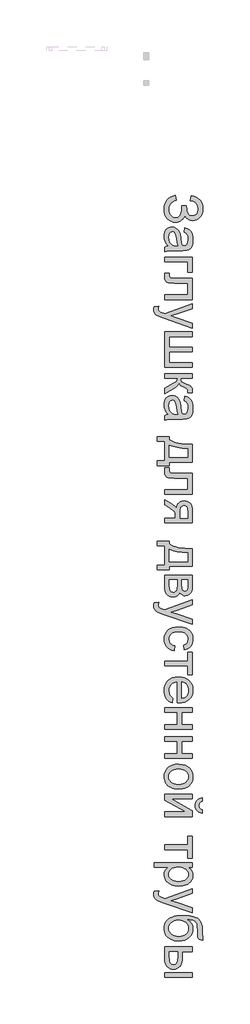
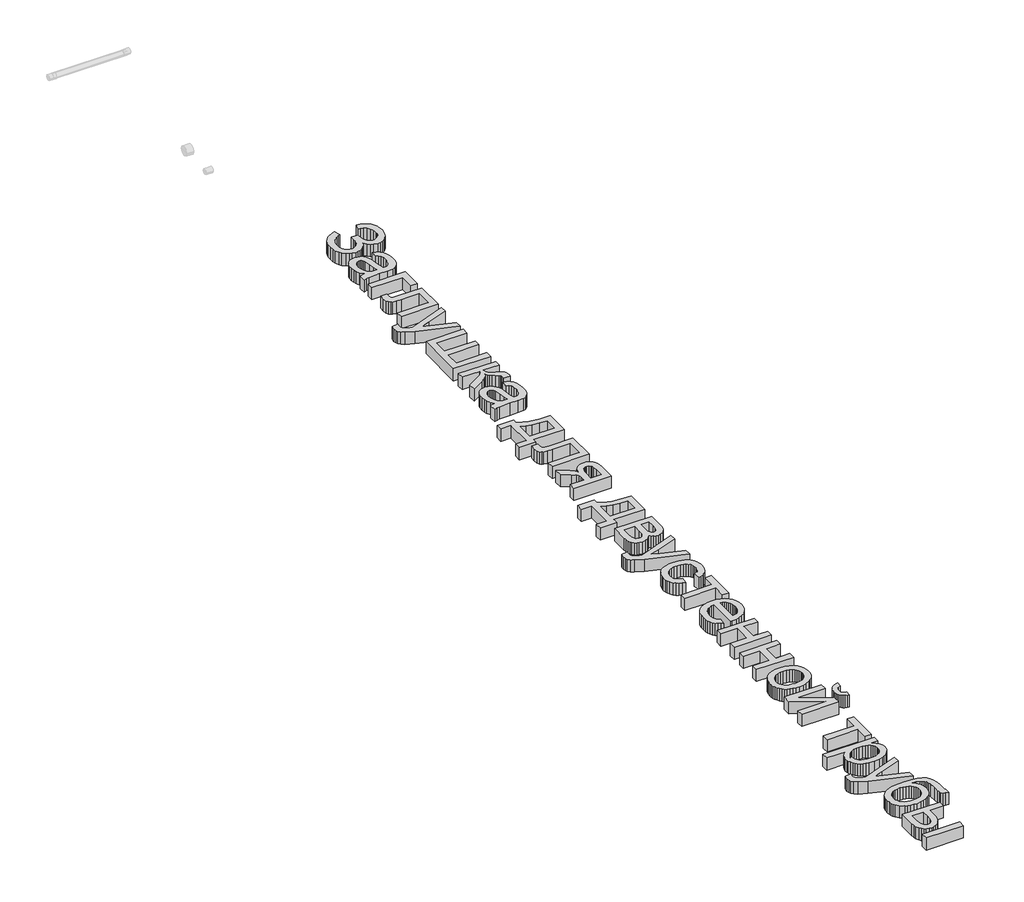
# One storey, part 30 of 33: 1 proxy.
"""IFC4 building model written with IfcOpenShell, lengths in millimetres."""

from ifc_helpers import new_model, si_unit, origin, origin_with_axes, place, context, project, spatial, polyline, outline, extrude, element, save

model = new_model("IFC4")

# Units and contexts
model_context = context("Model", 3, world=origin())
ifc_project = project(units=[si_unit("LENGTHUNIT", "METRE", prefix="MILLI")], contexts=[model_context])

# Site, building, storey
site = spatial("IfcSite", under=ifc_project)
building = spatial("IfcBuilding", under=site)
storey = spatial("IfcBuildingStorey", under=building, Name="Уровень 1", Elevation=0.0)

# Proxy
placement = place(None, origin())
element("IfcBuildingElementProxy", 1, Name="Надпись на модели 1", ObjectType="Надпись на модели 1", at=placement, inside=storey, context=model_context, shape_type="SweptSolid", body=[
    extrude(outline(polyline([(104390.6164186, -539.2594454), (104409.077957, -613.1055992), (104389.0974883, -619.131741), (104369.1080051, -628.7005511), (104329.1019955, -658.4661761), (104311.5914787, -678.3925583), (104299.0839666, -701.3207434), (104291.5794594, -727.2507314), (104289.077957, -756.1825223), (104290.9574642, -785.6191208), (104296.5959859, -811.765455), (104305.9935219, -834.6215247), (104319.1500724, -854.18733), (104334.9658777, -869.8679189), (104352.3411782, -881.0683396), (104371.2759738, -887.788592), (104391.7702647, -890.0286761), (104413.5986902, -887.5812603), (104433.0743512, -880.2390127), (104450.1972479, -868.0019333), (104464.9673801, -850.8700223), (104476.8619113, -829.5193612), (104485.3580051, -804.6260319), (104490.4556613, -776.1900343), (104492.1548801, -744.2113684), (104492.1548801, -705.4132915), (104566.0010339, -705.4132915), (104567.4974282, -753.640455), (104571.9866109, -788.9950223), (104582.6236301, -816.2366088), (104602.5635339, -840.12483), (104628.8315628, -856.7834838), (104658.452957, -862.3363684), (104676.4502527, -860.4884117), (104693.2306012, -854.9445415), (104708.7940027, -845.7047579), (104723.140457, -832.7690607), (104735.1611902, -816.6783156), (104743.7474282, -797.9733877), (104748.899171, -776.6542771), (104750.6164186, -752.7209838), (104745.3339666, -711.8135319), (104729.4866109, -677.3604069), (104704.9132936, -650.9661761), (104673.452957, -634.2354069), (104642.984207, -625.3111281), (104621.3856493, -622.3363684), (104639.8471878, -548.4902146), (104683.1164186, -557.6330932), (104720.6164186, -571.4319213), (104752.3471878, -589.886699), (104778.3087262, -612.9974261), (104798.5010339, -640.7641028), (104812.9241109, -673.186729), (104821.577957, -710.2653047), (104824.4625724, -751.99983), (104821.4652767, -792.2086641), (104812.4733897, -828.0274742), (104797.4869113, -859.4562603), (104776.5058416, -886.4950223), (104751.5133537, -908.2333035), (104724.4926205, -923.7606473), (104695.4436421, -933.0770535), (104664.3664186, -936.1825223), (104625.5052407, -931.3507915), (104591.2774762, -916.8555992), (104561.6831253, -892.6969454), (104536.7221878, -858.87483), (104528.8931613, -880.3201425), (104517.8099282, -899.9445415), (104503.4724883, -917.7480271), (104485.8808416, -933.7305992), (104465.7200844, -946.9187002), (104443.6753128, -956.3387723), (104419.7465267, -961.9908156), (104393.9337262, -963.87483), (104357.4117912, -960.2600463), (104323.999832, -949.4156954), (104293.6978488, -931.3417771), (104266.5058416, -906.0382915), (104244.0734498, -874.7672579), (104228.0503128, -838.7906954), (104218.4364306, -798.108604), (104215.2318032, -752.7209838), (104217.9721878, -713.4812002), (104226.1933416, -677.8291569), (104239.8952647, -645.764854), (104259.077957, -617.2882915), (104283.7414186, -592.3994694), (104313.8856493, -571.0983877), (104349.5106493, -553.3850463), (104390.6164186, -539.2594454)])), origin_with_axes(), (0.0, 0.0, 1.0), 150.0),
    extrude(outline(polyline([(104279.8471878, -1333.1055992), (104249.5947839, -1297.8231473), (104229.7991109, -1261.4950223), (104218.8736301, -1223.2918973), (104215.2318032, -1182.3844454), (104217.422308, -1149.5043372), (104223.9938224, -1120.671705), (104234.9463464, -1095.8865487), (104250.2798801, -1075.1488684), (104269.0208657, -1058.7741689), (104290.1957455, -1047.077955), (104313.8045195, -1040.0602266), (104339.8471878, -1037.7209838), (104370.4601686, -1041.2546377), (104398.2606493, -1051.8555992), (104422.0587262, -1068.2077627), (104440.6644955, -1088.9950223), (104454.7269955, -1113.4241088), (104464.8952647, -1140.7017531), (104476.0010339, -1204.5959838), (104487.6837262, -1280.1007915), (104501.3856493, -1332.6729069), (104517.827957, -1333.1055992), (104550.7846878, -1328.0214646), (104562.9902166, -1321.6662963), (104572.3471878, -1312.7690607), (104581.6861301, -1297.390455), (104588.3568032, -1278.6584838), (104593.6933416, -1231.1344454), (104590.1416589, -1187.1440607), (104579.4866109, -1156.4229069), (104559.781082, -1135.4733877), (104529.077957, -1120.7979069), (104538.3087262, -1046.9517531), (104578.6933416, -1059.7702627), (104610.4241109, -1078.8988684), (104634.6909378, -1106.1224261), (104652.6837262, -1143.2257915), (104663.8255532, -1188.6043973), (104667.5394955, -1240.6536761), (104664.2582455, -1290.5755511), (104654.4144955, -1330.1488684), (104639.6128128, -1359.9866088), (104621.4577647, -1380.7017531), (104599.0118512, -1394.4397338), (104571.3375724, -1403.3459838), (104506.7221878, -1406.9517531), (104414.8471878, -1406.9517531), (104286.5539186, -1410.7017531), (104254.8411782, -1416.2546377), (104224.4625724, -1425.4132915), (104224.4625724, -1351.5671377), (104250.1356493, -1339.7402146), (104279.8471878, -1333.1055992)]), holes=[polyline([(104427.5394955, -1333.1055992), (104415.2438224, -1283.4902146), (104404.8952647, -1213.9709838), (104392.9241109, -1150.43733), (104384.7390147, -1133.9048781), (104373.452957, -1121.6632915), (104359.9313224, -1114.0911761), (104345.0394955, -1111.5671377), (104323.0803609, -1117.0659357), (104305.0875724, -1133.56233), (104293.0803609, -1160.6957434), (104289.077957, -1198.1055992), (104293.4950243, -1237.7690607), (104306.7462262, -1272.8171377), (104326.2714666, -1301.2305992), (104349.5106493, -1320.9902146), (104373.452957, -1329.7522338), (104406.6260339, -1332.6729069), (104427.5394955, -1333.1055992)])]), origin_with_axes(), (0.0, 0.0, 1.0), 150.0),
    extrude(outline(polyline([(104658.3087262, -1508.4902146), (104658.3087262, -1748.4902146), (104584.4625724, -1748.4902146), (104584.4625724, -1582.3363684), (104224.4625724, -1582.3363684), (104224.4625724, -1508.4902146), (104658.3087262, -1508.4902146)])), origin_with_axes(), (0.0, 0.0, 1.0), 150.0),
    extrude(outline(polyline([(104658.3087262, -1840.7979069), (104658.3087262, -2173.1055992), (104224.8952647, -2173.1055992), (104224.8952647, -2099.2594454), (104584.4625724, -2099.2594454), (104584.4625724, -1914.6440607), (104377.4914186, -1914.6440607), (104317.4193032, -1913.4000704), (104282.0106493, -1909.6680992), (104260.3940628, -1900.3471857), (104241.6981493, -1882.3363684), (104228.7714666, -1855.0046377), (104224.4625724, -1817.7209838), (104228.2125724, -1757.7209838), (104298.3087262, -1757.7209838), (104298.3087262, -1790.74983), (104302.8519955, -1824.1392531), (104308.7293993, -1832.4866088), (104317.2750724, -1837.4805992), (104381.6741109, -1840.7979069), (104658.3087262, -1840.7979069)])), origin_with_axes(), (0.0, 0.0, 1.0), 150.0),
    extrude(outline(polyline([(104058.3087262, -2283.87483), (104129.4144955, -2274.6440607), (104122.9241109, -2312.1440607), (104124.9613705, -2331.8676184), (104131.0731493, -2347.1921377), (104140.8267551, -2359.1272338), (104153.7894955, -2368.6825223), (104208.1644955, -2388.87483), (104226.0491109, -2394.6440607), (104658.3087262, -2237.7209838), (104658.3087262, -2315.6055992), (104417.4433416, -2398.8267531), (104321.0971878, -2427.8171377), (104406.1933416, -2456.8075223), (104658.3087262, -2542.3363684), (104658.3087262, -2619.6440607), (104214.077957, -2468.6344454), (104117.7318032, -2429.4036761), (104086.9745916, -2409.3195415), (104065.6644955, -2386.5671377), (104053.2245916, -2360.1368492), (104049.077957, -2329.0190607), (104051.3856493, -2307.6368492), (104058.3087262, -2283.87483)])), origin_with_axes(), (0.0, 0.0, 1.0), 150.0),
    extrude(outline(polyline([(104658.3087262, -2680.7979069), (104658.3087262, -2754.6440607), (104298.3087262, -2754.6440607), (104298.3087262, -2920.7979069), (104658.3087262, -2920.7979069), (104658.3087262, -2994.6440607), (104298.3087262, -2994.6440607), (104298.3087262, -3160.7979069), (104658.3087262, -3160.7979069), (104658.3087262, -3234.6440607), (104224.4625724, -3234.6440607), (104224.4625724, -2680.7979069), (104658.3087262, -2680.7979069)])), origin_with_axes(), (0.0, 0.0, 1.0), 150.0),
    extrude(outline(polyline([(104658.3087262, -3336.1825223), (104658.3087262, -3410.0286761), (104473.6933416, -3410.0286761), (104477.0106493, -3440.0647338), (104486.9625724, -3459.49983), (104512.9241109, -3476.6993492), (104564.2702647, -3500.0286761), (104606.2594474, -3518.8327627), (104630.9769955, -3533.7065607), (104644.4445436, -3547.5887723), (104652.6837262, -3563.4180992), (104656.9024762, -3585.3231473), (104658.3087262, -3617.4325223), (104658.3087262, -3631.5671377), (104584.0298801, -3631.5671377), (104584.4625724, -3611.6632915), (104582.515457, -3588.5863684), (104576.6741109, -3575.6055992), (104560.4120916, -3565.0767531), (104528.0683416, -3550.2209838), (104495.6705051, -3534.6260319), (104475.4962262, -3520.43733), (104462.0286782, -3503.2558396), (104449.7510339, -3478.6825223), (104439.3574041, -3502.0839646), (104421.0130532, -3525.2690607), (104394.7179811, -3548.2378107), (104360.4721878, -3570.9902146), (104224.4625724, -3650.0286761), (104224.4625724, -3566.0863684), (104357.5875724, -3488.6344454), (104393.0142551, -3467.7209838), (104413.9096878, -3449.6921377), (104424.1320436, -3431.4830031), (104427.5394955, -3410.0286761), (104224.4625724, -3410.0286761), (104224.4625724, -3336.1825223), (104658.3087262, -3336.1825223)])), origin_with_axes(), (0.0, 0.0, 1.0), 150.0),
    extrude(outline(polyline([(104279.8471878, -3973.1055992), (104249.5947839, -3937.8231473), (104229.7991109, -3901.4950223), (104218.8736301, -3863.2918973), (104215.2318032, -3822.3844454), (104217.422308, -3789.5043372), (104223.9938224, -3760.671705), (104234.9463464, -3735.8865487), (104250.2798801, -3715.1488684), (104269.0208657, -3698.7741689), (104290.1957455, -3687.077955), (104313.8045195, -3680.0602266), (104339.8471878, -3677.7209838), (104370.4601686, -3681.2546377), (104398.2606493, -3691.8555992), (104422.0587262, -3708.2077627), (104440.6644955, -3728.9950223), (104454.7269955, -3753.4241088), (104464.8952647, -3780.7017531), (104476.0010339, -3844.5959838), (104487.6837262, -3920.1007915), (104501.3856493, -3972.6729069), (104517.827957, -3973.1055992), (104550.7846878, -3968.0214646), (104562.9902166, -3961.6662963), (104572.3471878, -3952.7690607), (104581.6861301, -3937.390455), (104588.3568032, -3918.6584838), (104593.6933416, -3871.1344454), (104590.1416589, -3827.1440607), (104579.4866109, -3796.4229069), (104559.781082, -3775.4733877), (104529.077957, -3760.7979069), (104538.3087262, -3686.9517531), (104578.6933416, -3699.7702627), (104610.4241109, -3718.8988684), (104634.6909378, -3746.1224261), (104652.6837262, -3783.2257915), (104663.8255532, -3828.6043973), (104667.5394955, -3880.6536761), (104664.2582455, -3930.5755511), (104654.4144955, -3970.1488684), (104639.6128128, -3999.9866088), (104621.4577647, -4020.7017531), (104599.0118512, -4034.4397338), (104571.3375724, -4043.3459838), (104506.7221878, -4046.9517531), (104414.8471878, -4046.9517531), (104286.5539186, -4050.7017531), (104254.8411782, -4056.2546377), (104224.4625724, -4065.4132915), (104224.4625724, -3991.5671377), (104250.1356493, -3979.7402146), (104279.8471878, -3973.1055992)]), holes=[polyline([(104427.5394955, -3973.1055992), (104415.2438224, -3923.4902146), (104404.8952647, -3853.9709838), (104392.9241109, -3790.43733), (104384.7390147, -3773.9048781), (104373.452957, -3761.6632915), (104359.9313224, -3754.0911761), (104345.0394955, -3751.5671377), (104323.0803609, -3757.0659357), (104305.0875724, -3773.56233), (104293.0803609, -3800.6957434), (104289.077957, -3838.1055992), (104293.4950243, -3877.7690607), (104306.7462262, -3912.8171377), (104326.2714666, -3941.2305992), (104349.5106493, -3960.9902146), (104373.452957, -3969.7522338), (104406.6260339, -3972.6729069), (104427.5394955, -3973.1055992)])]), origin_with_axes(), (0.0, 0.0, 1.0), 150.0),
    extrude(outline(polyline([(104658.3087262, -4443.87483), (104658.3087262, -4720.7979069), (104298.3087262, -4720.7979069), (104298.3087262, -4776.1825223), (104104.4625724, -4776.1825223), (104104.4625724, -4702.3363684), (104224.4625724, -4702.3363684), (104224.4625724, -4397.7209838), (104104.4625724, -4397.7209838), (104104.4625724, -4323.87483), (104298.3087262, -4323.87483), (104298.3087262, -4370.0286761), (104326.1768152, -4388.0620295), (104358.9397359, -4403.5803588), (104396.5974883, -4416.5836641), (104439.1500724, -4427.0719454), (104538.9397359, -4440.5034357), (104658.3087262, -4443.87483)]), holes=[polyline([(104584.4625724, -4508.4902146), (104494.0479089, -4502.4325223), (104416.2173801, -4491.1825223), (104350.9709859, -4474.7402146), (104298.3087262, -4453.1055992), (104298.3087262, -4646.9517531), (104584.4625724, -4646.9517531), (104584.4625724, -4508.4902146)])]), origin_with_axes(), (0.0, 0.0, 1.0), 150.0),
    extrude(outline(polyline([(104658.3087262, -4896.1825223), (104658.3087262, -5228.4902146), (104224.8952647, -5228.4902146), (104224.8952647, -5154.6440607), (104584.4625724, -5154.6440607), (104584.4625724, -4970.0286761), (104377.4914186, -4970.0286761), (104317.4193032, -4968.7846857), (104282.0106493, -4965.0527146), (104260.3940628, -4955.7318011), (104241.6981493, -4937.7209838), (104228.7714666, -4910.3892531), (104224.4625724, -4873.1055992), (104228.2125724, -4813.1055992), (104298.3087262, -4813.1055992), (104298.3087262, -4846.1344454), (104302.8519955, -4879.5238684), (104308.7293993, -4887.8712242), (104317.2750724, -4892.8652146), (104381.6741109, -4896.1825223), (104658.3087262, -4896.1825223)])), origin_with_axes(), (0.0, 0.0, 1.0), 150.0),
    extrude(outline(polyline([(104658.3087262, -5671.5671377), (104224.4625724, -5671.5671377), (104224.4625724, -5597.7209838), (104390.6164186, -5597.7209838), (104390.6164186, -5557.4805992), (104388.2726686, -5525.3892531), (104381.2414186, -5502.6729069), (104360.796707, -5480.7858877), (104318.2125724, -5451.1825223), (104224.4625724, -5392.3363684), (104224.4625724, -5306.9517531), (104343.0202647, -5381.0863684), (104385.5683416, -5413.8267531), (104397.9721878, -5429.2233877), (104404.4625724, -5443.9709838), (104410.4571637, -5416.8555992), (104419.9313224, -5393.4902146), (104432.8850484, -5373.87483), (104449.3183416, -5358.0094454), (104468.1765147, -5345.7678588), (104488.4048801, -5337.0238684), (104510.0034378, -5331.7774742), (104532.9721878, -5330.0286761), (104559.5647359, -5332.4174982), (104583.5250724, -5339.5839646), (104604.8531974, -5351.5280752), (104623.5491109, -5368.24983), (104638.7564426, -5389.4968252), (104649.6188224, -5415.0166569), (104656.1362503, -5444.8093252), (104658.3087262, -5478.87483), (104658.3087262, -5671.5671377)]), holes=[polyline([(104584.4625724, -5597.7209838), (104584.4625724, -5500.3652146), (104580.1897359, -5450.0827627), (104574.8486902, -5433.0950824), (104567.3712262, -5421.5430992), (104548.8195436, -5408.2918973), (104527.3471878, -5403.87483), (104512.1984498, -5405.5019333), (104499.2041589, -5410.3832434), (104488.3643152, -5418.5187603), (104479.6789186, -5429.9084838), (104473.0217671, -5445.4358276), (104468.2666589, -5465.984205), (104464.4625724, -5522.1440607), (104464.4625724, -5597.7209838), (104584.4625724, -5597.7209838)])]), origin_with_axes(), (0.0, 0.0, 1.0), 150.0),
    extrude(outline(polyline([(104658.3087262, -6077.7209838), (104658.3087262, -6354.6440607), (104298.3087262, -6354.6440607), (104298.3087262, -6410.0286761), (104104.4625724, -6410.0286761), (104104.4625724, -6336.1825223), (104224.4625724, -6336.1825223), (104224.4625724, -6031.5671377), (104104.4625724, -6031.5671377), (104104.4625724, -5957.7209838), (104298.3087262, -5957.7209838), (104298.3087262, -6003.87483), (104326.1768152, -6021.9081833), (104358.9397359, -6037.4265127), (104396.5974883, -6050.429818), (104439.1500724, -6060.9180992), (104538.9397359, -6074.3495896), (104658.3087262, -6077.7209838)]), holes=[polyline([(104584.4625724, -6142.3363684), (104494.0479089, -6136.2786761), (104416.2173801, -6125.0286761), (104350.9709859, -6108.5863684), (104298.3087262, -6086.9517531), (104298.3087262, -6280.7979069), (104584.4625724, -6280.7979069), (104584.4625724, -6142.3363684)])]), origin_with_axes(), (0.0, 0.0, 1.0), 150.0),
    extrude(outline(polyline([(104658.3087262, -6493.1055992), (104658.3087262, -6655.7979069), (104655.8387743, -6708.0995896), (104648.4289186, -6745.0046377), (104634.4385339, -6772.15608), (104612.2269955, -6795.1969454), (104583.2906974, -6810.9361281), (104549.1260339, -6816.1825223), (104521.5959859, -6813.0094454), (104497.8519955, -6803.4902146), (104477.7858897, -6787.5887723), (104461.2894955, -6765.2690607), (104445.9469474, -6792.6007915), (104421.265457, -6814.8844454), (104389.1921397, -6829.7041569), (104351.6741109, -6834.6440607), (104321.4487503, -6830.5424982), (104295.3880532, -6822.1320415), (104273.4920195, -6809.4126906), (104255.7606493, -6792.3844454), (104242.0677407, -6771.0202627), (104232.2870916, -6745.2930992), (104226.4187022, -6715.202955), (104224.4625724, -6680.74983), (104224.4625724, -6493.1055992), (104658.3087262, -6493.1055992)]), holes=[polyline([(104298.3087262, -6566.9517531), (104298.3087262, -6657.5286761), (104301.6440628, -6706.8916569), (104311.6500724, -6737.8652146), (104319.5331854, -6747.4655752), (104329.8411782, -6754.4878107), (104357.7318032, -6760.7979069), (104376.2113705, -6757.6428588), (104393.2846878, -6748.1777146), (104406.6440628, -6733.6464646), (104413.9818032, -6715.2930992), (104418.3087262, -6650.3171377), (104418.3087262, -6566.9517531), (104298.3087262, -6566.9517531)]), polyline([(104492.1548801, -6566.9517531), (104492.1548801, -6639.9325223), (104495.9048801, -6700.1488684), (104501.5298801, -6715.6536761), (104510.9048801, -6729.4277146), (104523.3087262, -6739.109205), (104538.0202647, -6742.3363684), (104550.0184618, -6740.921104), (104560.0515147, -6736.6753107), (104568.1194234, -6729.5989886), (104574.2221878, -6719.6921377), (104581.9024762, -6689.0070415), (104584.4625724, -6642.2402146), (104584.4625724, -6566.9517531), (104492.1548801, -6566.9517531)])]), origin_with_axes(), (0.0, 0.0, 1.0), 150.0),
    extrude(outline(polyline([(104058.3087262, -6926.9517531), (104129.4144955, -6917.7209838), (104122.9241109, -6955.2209838), (104124.9613705, -6974.9445415), (104131.0731493, -6990.2690607), (104140.8267551, -7002.2041569), (104153.7894955, -7011.7594454), (104208.1644955, -7031.9517531), (104226.0491109, -7037.7209838), (104658.3087262, -6880.7979069), (104658.3087262, -6958.6825223), (104417.4433416, -7041.9036761), (104321.0971878, -7070.8940607), (104406.1933416, -7099.8844454), (104658.3087262, -7185.4132915), (104658.3087262, -7262.7209838), (104214.077957, -7111.7113684), (104117.7318032, -7072.4805992), (104086.9745916, -7052.3964646), (104065.6644955, -7029.6440607), (104053.2245916, -7003.2137723), (104049.077957, -6972.0959838), (104051.3856493, -6950.7137723), (104058.3087262, -6926.9517531)])), origin_with_axes(), (0.0, 0.0, 1.0), 150.0),
    extrude(outline(polyline([(104381.3856493, -7600.7979069), (104372.1548801, -7674.6440607), (104337.3096277, -7666.6122098), (104306.4757936, -7654.0551184), (104279.6533777, -7636.9727867), (104256.8423801, -7615.3652146), (104238.6377527, -7590.1428588), (104225.6344474, -7562.2161761), (104217.8324642, -7531.5851665), (104215.2318032, -7498.24983), (104218.8601085, -7456.8330631), (104229.7450243, -7419.6981473), (104247.8865508, -7386.8450824), (104273.2846878, -7358.2738684), (104305.461671, -7335.147366), (104343.9397359, -7318.6284357), (104388.7188825, -7308.7170776), (104439.7991109, -7305.4132915), (104505.5142551, -7311.0563204), (104535.08607, -7318.1101064), (104562.4673801, -7327.9854069), (104587.1083056, -7340.74983), (104608.4589666, -7356.4709838), (104626.5193633, -7375.1488684), (104641.2894955, -7396.7834838), (104652.7738705, -7420.3967651), (104660.9769955, -7445.0106473), (104665.8988705, -7470.6251305), (104667.5394955, -7497.2402146), (104665.2858897, -7530.0031353), (104658.5250724, -7559.6380511), (104647.2570436, -7586.1449622), (104631.4818032, -7609.5238684), (104611.5599282, -7629.3781353), (104587.8519955, -7645.3111281), (104560.3580051, -7657.3228468), (104529.077957, -7665.4132915), (104519.8471878, -7591.5671377), (104552.0647359, -7578.171705), (104575.1596878, -7557.31233), (104589.0599282, -7530.1428588), (104593.6933416, -7497.8171377), (104591.4126926, -7472.725491), (104584.5707455, -7450.0947819), (104573.1675003, -7429.9250103), (104557.202957, -7412.2161761), (104536.3075243, -7397.7976064), (104510.1116109, -7387.4986281), (104478.6152166, -7381.319241), (104441.8183416, -7379.2594454), (104404.4670796, -7381.2741689), (104372.6056012, -7387.3183396), (104346.2339065, -7397.3919574), (104325.3519955, -7411.4950223), (104309.4821037, -7428.8522939), (104298.1464666, -7448.6885319), (104291.3450844, -7471.0037362), (104289.077957, -7495.7979069), (104294.7390147, -7534.0370896), (104301.8153368, -7550.5740487), (104311.7221878, -7565.3892531), (104324.5677407, -7578.0680391), (104340.4601686, -7588.1957434), (104359.3994714, -7595.772366), (104381.3856493, -7600.7979069)])), origin_with_axes(), (0.0, 0.0, 1.0), 150.0),
    extrude(outline(polyline([(104658.3087262, -7702.3363684), (104658.3087262, -8053.1055992), (104584.4625724, -8053.1055992), (104584.4625724, -7914.6440607), (104224.4625724, -7914.6440607), (104224.4625724, -7840.7979069), (104584.4625724, -7840.7979069), (104584.4625724, -7702.3363684), (104658.3087262, -7702.3363684)])), origin_with_axes(), (0.0, 0.0, 1.0), 150.0),
    extrude(outline(polyline([(104353.6933416, -8421.4709838), (104344.4625724, -8493.87483), (104315.4631734, -8482.773568), (104289.9072839, -8467.7870896), (104267.7949041, -8448.9153949), (104249.1260339, -8426.1584838), (104234.297308, -8399.7507314), (104223.7053609, -8369.9265127), (104217.3501926, -8336.6858276), (104215.2318032, -8300.0286761), (104218.8871517, -8254.2083636), (104229.8531974, -8213.3820415), (104248.1299402, -8177.5497098), (104273.7173801, -8146.7113684), (104305.9033777, -8121.9126906), (104343.9757936, -8104.1993492), (104387.9346277, -8093.5713444), (104437.7798801, -8090.0286761), (104489.3153368, -8093.6074021), (104534.7390147, -8104.34358), (104574.0509137, -8122.2372098), (104607.2510339, -8147.2882915), (104633.6272359, -8178.0455031), (104652.4673801, -8213.0575223), (104663.7714666, -8252.3243492), (104667.5394955, -8295.8459838), (104663.7804811, -8337.9658756), (104652.5034378, -8376.0563204), (104633.7083657, -8410.117318), (104607.3952647, -8440.1488684), (104574.2672599, -8464.663592), (104535.0274762, -8482.1741088), (104489.6759137, -8492.6804189), (104438.2125724, -8496.1825223), (104418.3087262, -8495.74983), (104418.3087262, -8163.87483), (104388.8405772, -8168.1521737), (104363.0322839, -8176.6572819), (104340.8838464, -8189.3901545), (104322.3952647, -8206.3507915), (104307.8189426, -8226.601693), (104297.4072839, -8249.2053588), (104291.1602887, -8274.1617891), (104289.077957, -8301.4709838), (104292.9361301, -8340.7738684), (104304.5106493, -8373.87483), (104324.5226686, -8400.7738684), (104353.6933416, -8421.4709838)]), holes=[polyline([(104492.1548801, -8163.87483), (104492.1548801, -8422.3363684), (104531.1693032, -8412.3483877), (104546.5118512, -8403.7576425), (104559.077957, -8392.7690607), (104574.2221878, -8372.6308396), (104585.0394955, -8349.7161761), (104591.5298801, -8324.0250704), (104593.6933416, -8295.5575223), (104591.9670796, -8269.5914766), (104586.7882936, -8245.7798781), (104578.1569835, -8224.1227266), (104566.0731493, -8204.6200223), (104551.0956854, -8188.2543372), (104533.7834859, -8176.0082434), (104514.1365508, -8167.881741), (104492.1548801, -8163.87483)])]), origin_with_axes(), (0.0, 0.0, 1.0), 150.0),
    extrude(outline(polyline([(104658.3087262, -8570.0286761), (104658.3087262, -8643.87483), (104492.1548801, -8643.87483), (104492.1548801, -8837.7209838), (104658.3087262, -8837.7209838), (104658.3087262, -8911.5671377), (104224.4625724, -8911.5671377), (104224.4625724, -8837.7209838), (104418.3087262, -8837.7209838), (104418.3087262, -8643.87483), (104224.4625724, -8643.87483), (104224.4625724, -8570.0286761), (104658.3087262, -8570.0286761)])), origin_with_axes(), (0.0, 0.0, 1.0), 150.0),
    extrude(outline(polyline([(104658.3087262, -9022.3363684), (104658.3087262, -9096.1825223), (104492.1548801, -9096.1825223), (104492.1548801, -9290.0286761), (104658.3087262, -9290.0286761), (104658.3087262, -9363.87483), (104224.4625724, -9363.87483), (104224.4625724, -9290.0286761), (104418.3087262, -9290.0286761), (104418.3087262, -9096.1825223), (104224.4625724, -9096.1825223), (104224.4625724, -9022.3363684), (104658.3087262, -9022.3363684)])), origin_with_axes(), (0.0, 0.0, 1.0), 150.0),
    extrude(outline(polyline([(104441.3856493, -9456.1825223), (104497.5725484, -9460.1759117), (104545.9890147, -9472.15608), (104586.6350484, -9492.1230271), (104619.5106493, -9520.0767531), (104640.5232695, -9548.2197819), (104655.5322839, -9579.2834838), (104664.5376926, -9613.2678588), (104667.5394955, -9650.1729069), (104663.8841469, -9690.913592), (104652.9181012, -9727.7510319), (104634.6413585, -9760.6852266), (104609.0539186, -9789.7161761), (104577.0211662, -9813.4105872), (104539.4084859, -9830.3351665), (104496.2158777, -9840.4899141), (104447.4433416, -9843.87483), (104407.9150964, -9842.3784357), (104372.8399762, -9837.8892531), (104342.2179811, -9830.4072819), (104316.0491109, -9819.9325223), (104293.445445, -9806.5956833), (104273.5190628, -9790.5274742), (104256.2699642, -9771.7278949), (104241.6981493, -9750.1969454), (104230.1191229, -9726.772967), (104221.8483897, -9702.2943011), (104216.8859498, -9676.7609478), (104215.2318032, -9650.1729069), (104218.8736301, -9608.8372699), (104229.7991109, -9571.6572819), (104248.0082455, -9538.632943), (104273.5010339, -9509.7642531), (104305.8447839, -9486.3222458), (104344.6068032, -9469.577955), (104389.7870916, -9459.5313805), (104441.3856493, -9456.1825223)]), holes=[polyline([(104441.5298801, -9530.0286761), (104405.71107, -9532.1650944), (104374.6969474, -9538.5743492), (104348.4875123, -9549.2564406), (104327.0827647, -9564.2113684), (104310.4556613, -9582.4024742), (104298.5791589, -9602.7930992), (104291.4532575, -9625.3832434), (104289.077957, -9650.1729069), (104291.4667791, -9674.8363684), (104298.6332455, -9697.3363684), (104310.5773561, -9717.6729069), (104327.2991109, -9735.8459838), (104348.9156974, -9750.8009117), (104375.5443032, -9761.4830031), (104407.1849282, -9767.8922579), (104443.8375724, -9770.0286761), (104478.5205652, -9767.8787362), (104508.7233897, -9761.4289165), (104534.446046, -9750.679217), (104555.6885339, -9735.6296377), (104572.3156373, -9717.3889526), (104584.1921397, -9697.0659357), (104591.3180412, -9674.6605872), (104593.6933416, -9650.1729069), (104591.3270556, -9625.3832434), (104584.2281974, -9602.7930992), (104572.3967671, -9582.4024742), (104555.8327647, -9564.2113684), (104534.4911181, -9549.2564406), (104508.3267551, -9538.5743492), (104477.3396758, -9532.1650944), (104441.5298801, -9530.0286761)])]), origin_with_axes(), (0.0, 0.0, 1.0), 150.0),
    extrude(outline(polyline([(104815.2318032, -10166.9517531), (104815.2318032, -10222.3363684), (104790.0319835, -10217.8787362), (104767.9421397, -10210.4193011), (104748.9622719, -10199.9580631), (104733.0923801, -10186.4950223), (104720.5668392, -10170.3006112), (104711.6200243, -10151.6452627), (104706.2519354, -10130.5289766), (104704.4625724, -10106.9517531), (104706.2384137, -10081.3417771), (104711.5659378, -10058.4541569), (104720.4451445, -10038.2888925), (104732.8760339, -10020.8459838), (104748.6783176, -10006.3778348), (104767.671707, -9995.1368492), (104789.8562022, -9987.1230271), (104815.2318032, -9982.3363684), (104815.2318032, -10037.7209838), (104790.9108897, -10045.5094454), (104773.6212262, -10058.4902146), (104763.2906974, -10076.7354069), (104759.8471878, -10100.3171377), (104763.1825243, -10126.9277146), (104773.1885339, -10146.1825223), (104790.3700243, -10159.1632915), (104815.2318032, -10166.9517531)])), origin_with_axes(), (0.0, 0.0, 1.0), 150.0),
    extrude(outline(polyline([(104658.3087262, -9926.9517531), (104658.3087262, -10000.7979069), (104327.4433416, -10000.7979069), (104658.3087262, -10182.2402146), (104658.3087262, -10277.7209838), (104224.4625724, -10277.7209838), (104224.4625724, -10203.87483), (104553.3087262, -10203.87483), (104224.4625724, -10023.5863684), (104224.4625724, -9926.9517531), (104658.3087262, -9926.9517531)])), origin_with_axes(), (0.0, 0.0, 1.0), 150.0),
    extrude(outline(polyline([(104658.3087262, -10582.3363684), (104658.3087262, -10933.1055992), (104584.4625724, -10933.1055992), (104584.4625724, -10794.6440607), (104224.4625724, -10794.6440607), (104224.4625724, -10720.7979069), (104584.4625724, -10720.7979069), (104584.4625724, -10582.3363684), (104658.3087262, -10582.3363684)])), origin_with_axes(), (0.0, 0.0, 1.0), 150.0),
    extrude(outline(polyline([(104058.3087262, -10997.7209838), (104658.3087262, -10997.7209838), (104658.3087262, -11071.5671377), (104585.9048801, -11071.5671377), (104621.6200243, -11095.6536761), (104647.1308416, -11122.62483), (104662.437332, -11154.0671377), (104667.5394955, -11191.5671377), (104665.7546397, -11217.3213444), (104660.4000724, -11241.5070415), (104651.4757936, -11264.124229), (104638.9818032, -11285.1729069), (104623.2426205, -11304.1933396), (104604.5827647, -11320.7257915), (104583.0022359, -11334.7702627), (104558.5010339, -11346.3267531), (104504.0899762, -11361.7955031), (104444.702957, -11366.9517531), (104381.5479089, -11361.1284357), (104352.4718873, -11353.8492891), (104325.0635339, -11343.6584838), (104300.0394955, -11330.6957434), (104278.1164186, -11315.1007915), (104259.2943032, -11296.8736281), (104243.5731493, -11276.0142531), (104231.1738104, -11253.5458035), (104222.3171397, -11230.4914165), (104217.0031373, -11206.851092), (104215.2318032, -11182.62483), (104219.9733897, -11148.6765127), (104234.1981493, -11118.3700223), (104255.6705051, -11092.4265127), (104282.1548801, -11071.5671377), (104058.3087262, -11071.5671377), (104058.3087262, -10997.7209838)]), holes=[polyline([(104437.9241109, -11071.5671377), (104402.3351686, -11073.5638324), (104371.7221878, -11079.5539165), (104346.0851686, -11089.5373901), (104325.4241109, -11103.5142531), (104309.5226686, -11120.3396737), (104298.1644955, -11138.8688204), (104291.3495916, -11159.101693), (104289.077957, -11181.0382915), (104291.4307214, -11203.2903949), (104298.4890147, -11223.8928588), (104310.2528368, -11242.8456833), (104326.7221878, -11260.1488684), (104348.1314426, -11274.5674381), (104374.7149762, -11284.8664165), (104406.4727887, -11291.0458035), (104443.4048801, -11293.1055992), (104478.687332, -11291.0953829), (104509.2462262, -11285.0647338), (104535.0815628, -11275.0136521), (104556.1933416, -11260.9421377), (104572.5995916, -11244.0761521), (104584.3183416, -11225.6416569), (104591.3495916, -11205.6386521), (104593.6933416, -11184.0671377), (104591.2008537, -11162.5632314), (104583.7233897, -11142.3303588), (104571.2609498, -11123.3685199), (104553.8135339, -11105.6777146), (104531.6155171, -11090.7543372), (104504.9012743, -11080.0947819), (104473.6708056, -11073.6990487), (104437.9241109, -11071.5671377)])]), origin_with_axes(), (0.0, 0.0, 1.0), 150.0),
    extrude(outline(polyline([(104058.3087262, -11450.0286761), (104129.4144955, -11440.7979069), (104122.9241109, -11478.2979069), (104124.9613705, -11498.0214646), (104131.0731493, -11513.3459838), (104140.8267551, -11525.28108), (104153.7894955, -11534.8363684), (104208.1644955, -11555.0286761), (104226.0491109, -11560.7979069), (104658.3087262, -11403.87483), (104658.3087262, -11481.7594454), (104417.4433416, -11564.9805992), (104321.0971878, -11593.9709838), (104406.1933416, -11622.9613684), (104658.3087262, -11708.4902146), (104658.3087262, -11785.7979069), (104214.077957, -11634.7882915), (104117.7318032, -11595.5575223), (104086.9745916, -11575.4733877), (104065.6644955, -11552.7209838), (104053.2245916, -11526.2906954), (104049.077957, -11495.1729069), (104051.3856493, -11473.7906954), (104058.3087262, -11450.0286761)])), origin_with_axes(), (0.0, 0.0, 1.0), 150.0),
    extrude(outline(polyline([(104824.4625724, -12151.5671377), (104824.4625724, -12216.1825223), (104789.3604089, -12209.18733), (104766.8423801, -12197.1440607), (104753.5190628, -12180.4493492), (104746.0010339, -12159.49983), (104742.5394955, -12125.3531954), (104741.3856493, -12069.0671377), (104737.1308416, -11993.9769934), (104731.812332, -11967.0734478), (104724.3664186, -11947.2642531), (104714.5767551, -11932.1470656), (104702.2269955, -11919.3195415), (104687.3171397, -11908.7816809), (104669.8471878, -11900.5334838), (104626.9745916, -11889.4818011), (104573.3568032, -11884.7402146), (104614.6068032, -11914.4337242), (104644.0298801, -11948.7065607), (104661.6620916, -11987.5947819), (104667.5394955, -12031.1344454), (104663.8030171, -12071.3658156), (104652.593582, -12107.9733877), (104633.9111902, -12140.9571617), (104607.7558416, -12170.3171377), (104575.227296, -12194.421705), (104537.4253128, -12211.6392531), (104494.3498921, -12221.9697819), (104446.0010339, -12225.4132915), (104409.0148561, -12223.7050583), (104375.5082455, -12218.5803588), (104345.4812022, -12210.039193), (104318.9337262, -12198.0815607), (104274.9613705, -12168.2077627), (104242.2750724, -12133.24983), (104230.4436421, -12112.8051184), (104221.9926205, -12088.9709838), (104216.9220075, -12061.7474261), (104215.2318032, -12031.1344454), (104217.4087863, -11995.7212843), (104223.9397359, -11964.4818011), (104234.8246517, -11937.4159958), (104250.0635339, -11914.5238684), (104268.6963464, -11894.9310199), (104289.7630532, -11877.7630511), (104313.2636541, -11863.0199622), (104339.1981493, -11850.7017531), (104371.3841469, -11840.984205), (104413.6392551, -11834.0430992), (104465.9634738, -11829.8784357), (104528.3568032, -11828.4902146), (104606.1107094, -11831.992318), (104670.0455051, -11842.4986281), (104720.1611902, -11860.0091449), (104740.0368663, -11871.3909808), (104756.4577647, -11884.5238684), (104782.1714065, -11916.304217), (104800.5382936, -11955.6116088), (104811.5584258, -12002.4460439), (104815.2318032, -12056.8075223), (104816.890457, -12139.0190607), (104819.6128128, -12147.0599261), (104824.4625724, -12151.5671377)]), holes=[polyline([(104448.3087262, -12151.5671377), (104478.8090267, -12149.5659357), (104506.4156974, -12143.56233), (104531.1287383, -12133.5563204), (104552.9481493, -12119.5479069), (104570.774171, -12101.8976665), (104583.5070436, -12080.9661761), (104591.1467671, -12056.7534357), (104593.6933416, -12029.2594454), (104591.0025363, -12000.5665367), (104582.9301205, -11975.3531954), (104569.476094, -11953.6194213), (104550.640457, -11935.3652146), (104527.3066229, -11920.9150944), (104500.3580051, -11910.59358), (104469.7946037, -11904.4006713), (104435.6164186, -11902.3363684), (104402.1503729, -11904.6170175), (104372.8580051, -11911.4589646), (104347.7393152, -11922.8622098), (104326.7943032, -11938.8267531), (104310.2934017, -11958.1356473), (104298.5070436, -11979.5719454), (104291.4352287, -12003.1356473), (104289.077957, -12028.8267531), (104291.80482, -12054.8694213), (104299.9854089, -12078.3339646), (104313.6197238, -12099.2203829), (104332.7077647, -12117.5286761), (104356.2940027, -12132.4205031), (104383.4229089, -12143.0575223), (104414.0944835, -12149.4397338), (104448.3087262, -12151.5671377)])]), origin_with_axes(), (0.0, 0.0, 1.0), 150.0),
    extrude(outline(polyline([(104658.3087262, -12317.7209838), (104658.3087262, -12391.5671377), (104501.3856493, -12391.5671377), (104501.3856493, -12482.8652146), (104499.0734498, -12524.8769333), (104492.1368512, -12561.7774742), (104480.5758537, -12593.5668372), (104464.390457, -12620.2450223), (104444.1395556, -12641.3522939), (104420.3820436, -12656.4289165), (104393.117921, -12665.4748901), (104362.3471878, -12668.4902146), (104334.8937623, -12665.9616689), (104309.5046397, -12658.3760319), (104286.17982, -12645.7333035), (104264.9193032, -12628.0334838), (104247.2194835, -12604.7807795), (104234.5767551, -12575.4793973), (104226.9911181, -12540.1293372), (104224.4625724, -12498.7305992), (104224.4625724, -12317.7209838), (104658.3087262, -12317.7209838)]), holes=[polyline([(104298.3087262, -12391.5671377), (104298.3087262, -12467.4325223), (104302.1849282, -12526.2426184), (104307.0301806, -12548.264854), (104313.8135339, -12565.3652146), (104322.6521758, -12578.1747098), (104333.6632936, -12587.3243492), (104346.8468873, -12592.8141329), (104362.202957, -12594.6440607), (104386.3255532, -12589.2173781), (104407.6356493, -12572.93733), (104416.343582, -12558.8072218), (104422.5635339, -12538.1236281), (104427.5394955, -12477.0959838), (104427.5394955, -12391.5671377), (104298.3087262, -12391.5671377)])]), origin_with_axes(), (0.0, 0.0, 1.0), 150.0),
    extrude(outline(polyline([(104658.3087262, -12723.87483), (104658.3087262, -12797.7209838), (104224.4625724, -12797.7209838), (104224.4625724, -12723.87483), (104658.3087262, -12723.87483)])), origin_with_axes(), (0.0, 0.0, 1.0), 150.0),
])

save(model, "model.ifc")
